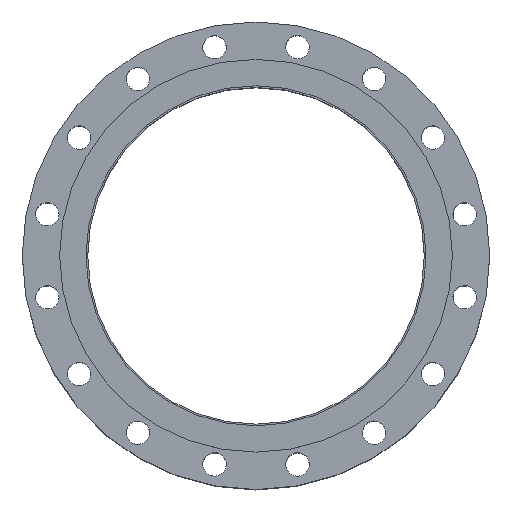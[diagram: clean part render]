
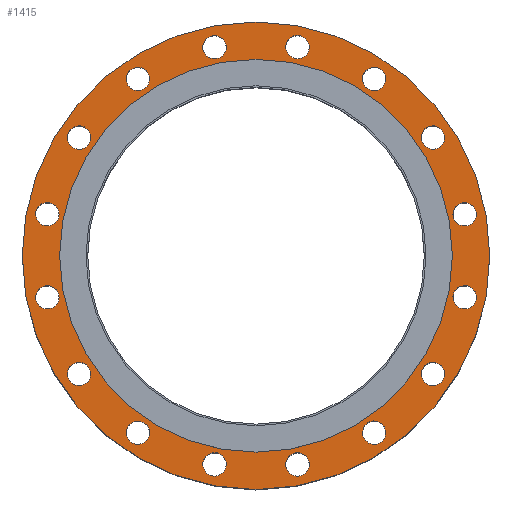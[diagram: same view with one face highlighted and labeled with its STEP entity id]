
A CAD part, top view. The second image highlights one B-rep face of the part: STEP entity #1415.
In plain terms, the highlighted planar face has unit normal (0, 0, 1).
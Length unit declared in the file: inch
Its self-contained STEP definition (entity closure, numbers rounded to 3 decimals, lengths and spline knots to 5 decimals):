
#92=FACE_BOUND('',#371,.T.);
#93=FACE_BOUND('',#372,.T.);
#94=FACE_BOUND('',#373,.T.);
#95=FACE_BOUND('',#374,.T.);
#96=FACE_BOUND('',#375,.T.);
#97=FACE_BOUND('',#376,.T.);
#98=FACE_BOUND('',#377,.T.);
#99=FACE_BOUND('',#378,.T.);
#100=FACE_BOUND('',#379,.T.);
#101=FACE_BOUND('',#380,.T.);
#102=FACE_BOUND('',#381,.T.);
#103=FACE_BOUND('',#382,.T.);
#104=FACE_BOUND('',#383,.T.);
#105=FACE_BOUND('',#384,.T.);
#106=FACE_BOUND('',#385,.T.);
#107=FACE_BOUND('',#386,.T.);
#108=FACE_BOUND('',#387,.T.);
#150=PLANE('',#1612);
#249=FACE_OUTER_BOUND('',#370,.T.);
#370=EDGE_LOOP('',(#1117));
#371=EDGE_LOOP('',(#1118));
#372=EDGE_LOOP('',(#1119));
#373=EDGE_LOOP('',(#1120));
#374=EDGE_LOOP('',(#1121));
#375=EDGE_LOOP('',(#1122));
#376=EDGE_LOOP('',(#1123));
#377=EDGE_LOOP('',(#1124));
#378=EDGE_LOOP('',(#1125));
#379=EDGE_LOOP('',(#1126));
#380=EDGE_LOOP('',(#1127));
#381=EDGE_LOOP('',(#1128));
#382=EDGE_LOOP('',(#1129));
#383=EDGE_LOOP('',(#1130));
#384=EDGE_LOOP('',(#1131));
#385=EDGE_LOOP('',(#1132));
#386=EDGE_LOOP('',(#1133));
#387=EDGE_LOOP('',(#1134));
#551=CIRCLE('',#1543,0.625);
#553=CIRCLE('',#1546,0.625);
#555=CIRCLE('',#1549,0.625);
#557=CIRCLE('',#1552,0.625);
#559=CIRCLE('',#1555,0.625);
#561=CIRCLE('',#1558,0.625);
#563=CIRCLE('',#1561,0.625);
#565=CIRCLE('',#1564,0.625);
#567=CIRCLE('',#1567,0.625);
#569=CIRCLE('',#1570,0.625);
#571=CIRCLE('',#1573,0.625);
#573=CIRCLE('',#1576,0.625);
#575=CIRCLE('',#1579,0.625);
#577=CIRCLE('',#1582,0.625);
#579=CIRCLE('',#1585,0.625);
#581=CIRCLE('',#1588,0.625);
#594=CIRCLE('',#1607,10.5);
#596=CIRCLE('',#1611,12.5);
#707=VERTEX_POINT('',#2398);
#709=VERTEX_POINT('',#2404);
#711=VERTEX_POINT('',#2410);
#713=VERTEX_POINT('',#2416);
#715=VERTEX_POINT('',#2422);
#717=VERTEX_POINT('',#2428);
#719=VERTEX_POINT('',#2434);
#721=VERTEX_POINT('',#2440);
#723=VERTEX_POINT('',#2446);
#725=VERTEX_POINT('',#2452);
#727=VERTEX_POINT('',#2458);
#729=VERTEX_POINT('',#2464);
#731=VERTEX_POINT('',#2470);
#733=VERTEX_POINT('',#2476);
#735=VERTEX_POINT('',#2482);
#737=VERTEX_POINT('',#2488);
#748=VERTEX_POINT('',#2520);
#750=VERTEX_POINT('',#2527);
#827=EDGE_CURVE('',#707,#707,#551,.T.);
#830=EDGE_CURVE('',#709,#709,#553,.T.);
#833=EDGE_CURVE('',#711,#711,#555,.T.);
#836=EDGE_CURVE('',#713,#713,#557,.T.);
#839=EDGE_CURVE('',#715,#715,#559,.T.);
#842=EDGE_CURVE('',#717,#717,#561,.T.);
#845=EDGE_CURVE('',#719,#719,#563,.T.);
#848=EDGE_CURVE('',#721,#721,#565,.T.);
#851=EDGE_CURVE('',#723,#723,#567,.T.);
#854=EDGE_CURVE('',#725,#725,#569,.T.);
#857=EDGE_CURVE('',#727,#727,#571,.T.);
#860=EDGE_CURVE('',#729,#729,#573,.T.);
#863=EDGE_CURVE('',#731,#731,#575,.T.);
#866=EDGE_CURVE('',#733,#733,#577,.T.);
#869=EDGE_CURVE('',#735,#735,#579,.T.);
#872=EDGE_CURVE('',#737,#737,#581,.T.);
#888=EDGE_CURVE('',#748,#748,#594,.T.);
#890=EDGE_CURVE('',#750,#750,#596,.T.);
#1117=ORIENTED_EDGE('',*,*,#890,.T.);
#1118=ORIENTED_EDGE('',*,*,#827,.T.);
#1119=ORIENTED_EDGE('',*,*,#830,.T.);
#1120=ORIENTED_EDGE('',*,*,#833,.T.);
#1121=ORIENTED_EDGE('',*,*,#836,.T.);
#1122=ORIENTED_EDGE('',*,*,#839,.T.);
#1123=ORIENTED_EDGE('',*,*,#842,.T.);
#1124=ORIENTED_EDGE('',*,*,#845,.T.);
#1125=ORIENTED_EDGE('',*,*,#848,.T.);
#1126=ORIENTED_EDGE('',*,*,#851,.T.);
#1127=ORIENTED_EDGE('',*,*,#854,.T.);
#1128=ORIENTED_EDGE('',*,*,#857,.T.);
#1129=ORIENTED_EDGE('',*,*,#860,.T.);
#1130=ORIENTED_EDGE('',*,*,#863,.T.);
#1131=ORIENTED_EDGE('',*,*,#866,.T.);
#1132=ORIENTED_EDGE('',*,*,#869,.T.);
#1133=ORIENTED_EDGE('',*,*,#872,.T.);
#1134=ORIENTED_EDGE('',*,*,#888,.T.);
#1415=ADVANCED_FACE('',(#249,#92,#93,#94,#95,#96,#97,#98,#99,#100,#101,
#102,#103,#104,#105,#106,#107,#108),#150,.T.);
#1543=AXIS2_PLACEMENT_3D('',#2399,#1823,#1824);
#1546=AXIS2_PLACEMENT_3D('',#2405,#1830,#1831);
#1549=AXIS2_PLACEMENT_3D('',#2411,#1837,#1838);
#1552=AXIS2_PLACEMENT_3D('',#2417,#1844,#1845);
#1555=AXIS2_PLACEMENT_3D('',#2423,#1851,#1852);
#1558=AXIS2_PLACEMENT_3D('',#2429,#1858,#1859);
#1561=AXIS2_PLACEMENT_3D('',#2435,#1865,#1866);
#1564=AXIS2_PLACEMENT_3D('',#2441,#1872,#1873);
#1567=AXIS2_PLACEMENT_3D('',#2447,#1879,#1880);
#1570=AXIS2_PLACEMENT_3D('',#2453,#1886,#1887);
#1573=AXIS2_PLACEMENT_3D('',#2459,#1893,#1894);
#1576=AXIS2_PLACEMENT_3D('',#2465,#1900,#1901);
#1579=AXIS2_PLACEMENT_3D('',#2471,#1907,#1908);
#1582=AXIS2_PLACEMENT_3D('',#2477,#1914,#1915);
#1585=AXIS2_PLACEMENT_3D('',#2483,#1921,#1922);
#1588=AXIS2_PLACEMENT_3D('',#2489,#1928,#1929);
#1607=AXIS2_PLACEMENT_3D('',#2522,#1969,#1970);
#1611=AXIS2_PLACEMENT_3D('',#2528,#1977,#1978);
#1612=AXIS2_PLACEMENT_3D('',#2530,#1980,#1981);
#1823=DIRECTION('center_axis',(0.,0.,-1.));
#1824=DIRECTION('ref_axis',(0.924,-0.383,0.));
#1830=DIRECTION('center_axis',(0.,0.,-1.));
#1831=DIRECTION('ref_axis',(0.707,-0.707,0.));
#1837=DIRECTION('center_axis',(0.,0.,-1.));
#1838=DIRECTION('ref_axis',(0.383,-0.924,0.));
#1844=DIRECTION('center_axis',(0.,0.,-1.));
#1845=DIRECTION('ref_axis',(0.,-1.,0.));
#1851=DIRECTION('center_axis',(0.,0.,-1.));
#1852=DIRECTION('ref_axis',(-0.383,-0.924,0.));
#1858=DIRECTION('center_axis',(0.,0.,-1.));
#1859=DIRECTION('ref_axis',(-0.707,-0.707,0.));
#1865=DIRECTION('center_axis',(0.,0.,-1.));
#1866=DIRECTION('ref_axis',(-0.924,-0.383,0.));
#1872=DIRECTION('center_axis',(0.,0.,-1.));
#1873=DIRECTION('ref_axis',(-1.,0.,0.));
#1879=DIRECTION('center_axis',(0.,0.,-1.));
#1880=DIRECTION('ref_axis',(-0.924,0.383,0.));
#1886=DIRECTION('center_axis',(0.,0.,-1.));
#1887=DIRECTION('ref_axis',(-0.707,0.707,0.));
#1893=DIRECTION('center_axis',(0.,0.,-1.));
#1894=DIRECTION('ref_axis',(-0.383,0.924,0.));
#1900=DIRECTION('center_axis',(0.,0.,-1.));
#1901=DIRECTION('ref_axis',(0.,1.,0.));
#1907=DIRECTION('center_axis',(0.,0.,-1.));
#1908=DIRECTION('ref_axis',(0.383,0.924,0.));
#1914=DIRECTION('center_axis',(0.,0.,-1.));
#1915=DIRECTION('ref_axis',(0.707,0.707,0.));
#1921=DIRECTION('center_axis',(0.,0.,-1.));
#1922=DIRECTION('ref_axis',(0.924,0.383,0.));
#1928=DIRECTION('center_axis',(0.,0.,-1.));
#1929=DIRECTION('ref_axis',(1.,0.,0.));
#1969=DIRECTION('center_axis',(0.,0.,-1.));
#1970=DIRECTION('ref_axis',(0.,1.,0.));
#1977=DIRECTION('center_axis',(0.,0.,1.));
#1978=DIRECTION('ref_axis',(1.,0.,0.));
#1980=DIRECTION('center_axis',(0.,0.,1.));
#1981=DIRECTION('ref_axis',(1.,0.,0.));
#2398=CARTESIAN_POINT('',(1.64173,11.39561,0.75));
#2399=CARTESIAN_POINT('Origin',(2.21915,11.15643,0.75));
#2404=CARTESIAN_POINT('',(5.87767,9.89991,0.75));
#2405=CARTESIAN_POINT('Origin',(6.31961,9.45797,0.75));
#2410=CARTESIAN_POINT('',(9.21879,6.89704,0.75));
#2411=CARTESIAN_POINT('Origin',(9.45797,6.31961,0.75));
#2416=CARTESIAN_POINT('',(11.15643,2.84415,0.75));
#2417=CARTESIAN_POINT('Origin',(11.15643,2.21915,0.75));
#2422=CARTESIAN_POINT('',(11.39561,-1.64173,0.75));
#2423=CARTESIAN_POINT('Origin',(11.15643,-2.21915,0.75));
#2428=CARTESIAN_POINT('',(9.89991,-5.87767,0.75));
#2429=CARTESIAN_POINT('Origin',(9.45797,-6.31961,0.75));
#2434=CARTESIAN_POINT('',(6.89704,-9.21879,0.75));
#2435=CARTESIAN_POINT('Origin',(6.31961,-9.45797,0.75));
#2440=CARTESIAN_POINT('',(2.84415,-11.15643,0.75));
#2441=CARTESIAN_POINT('Origin',(2.21915,-11.15643,0.75));
#2446=CARTESIAN_POINT('',(-1.64173,-11.39561,0.75));
#2447=CARTESIAN_POINT('Origin',(-2.21915,-11.15643,0.75));
#2452=CARTESIAN_POINT('',(-5.87767,-9.89991,0.75));
#2453=CARTESIAN_POINT('Origin',(-6.31961,-9.45797,0.75));
#2458=CARTESIAN_POINT('',(-9.21879,-6.89704,0.75));
#2459=CARTESIAN_POINT('Origin',(-9.45797,-6.31961,0.75));
#2464=CARTESIAN_POINT('',(-11.15643,-2.84415,0.75));
#2465=CARTESIAN_POINT('Origin',(-11.15643,-2.21915,0.75));
#2470=CARTESIAN_POINT('',(-11.39561,1.64173,0.75));
#2471=CARTESIAN_POINT('Origin',(-11.15643,2.21915,0.75));
#2476=CARTESIAN_POINT('',(-9.89991,5.87767,0.75));
#2477=CARTESIAN_POINT('Origin',(-9.45797,6.31961,0.75));
#2482=CARTESIAN_POINT('',(-6.89704,9.21879,0.75));
#2483=CARTESIAN_POINT('Origin',(-6.31961,9.45797,0.75));
#2488=CARTESIAN_POINT('',(-2.84415,11.15643,0.75));
#2489=CARTESIAN_POINT('Origin',(-2.21915,11.15643,0.75));
#2520=CARTESIAN_POINT('',(0.,-10.5,0.75));
#2522=CARTESIAN_POINT('Origin',(0.,0.,0.75));
#2527=CARTESIAN_POINT('',(0.,-12.5,0.75));
#2528=CARTESIAN_POINT('Origin',(0.,0.,0.75));
#2530=CARTESIAN_POINT('Origin',(0.,9.09,0.75));
